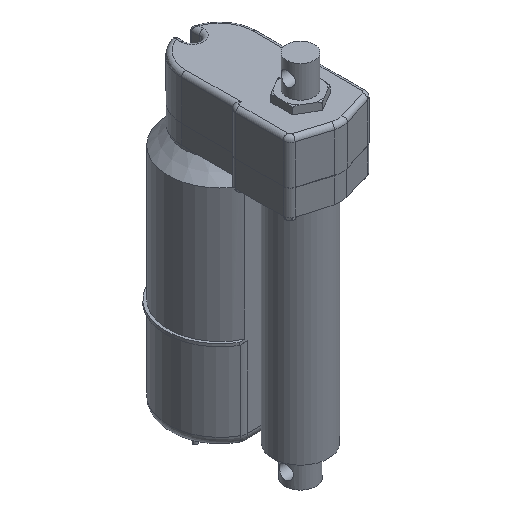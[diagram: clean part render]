
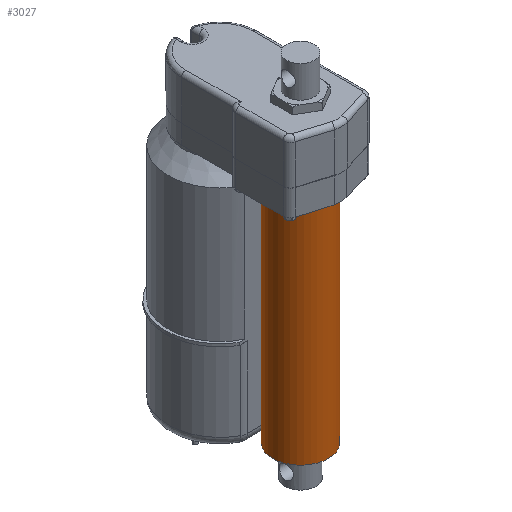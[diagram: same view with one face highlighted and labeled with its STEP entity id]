
A CAD part, isometric view. The second image highlights one B-rep face of the part: STEP entity #3027.
In plain terms, the highlighted cylindrical face has radius 25.65 mm (diameter 51.3 mm), a full revolution.
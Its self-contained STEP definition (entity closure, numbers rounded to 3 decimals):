
#410 = AXIS2_PLACEMENT_3D ( 'NONE', #5092, #5093, #5094 ) ;
#414 = AXIS2_PLACEMENT_3D ( 'NONE', #5067, #5075, #5076 ) ;
#439 = AXIS2_PLACEMENT_3D ( 'NONE', #5452, #5459, #5458 ) ;
#896 = EDGE_LOOP ( 'NONE', ( #1100 ) ) ;
#900 = EDGE_LOOP ( 'NONE', ( #1101 ) ) ;
#1100 = ORIENTED_EDGE ( 'NONE', *, *, #2946, .F. ) ;
#1101 = ORIENTED_EDGE ( 'NONE', *, *, #2953, .F. ) ;
#2221 = CIRCLE ( 'NONE', #414, 25.65 ) ;
#2232 = CIRCLE ( 'NONE', #410, 25.65 ) ;
#2358 = CYLINDRICAL_SURFACE ( 'NONE', #439, 25.65 ) ;
#2362 = FACE_OUTER_BOUND ( 'NONE', #896, .T. ) ;
#2363 = FACE_OUTER_BOUND ( 'NONE', #900, .T. ) ;
#2946 = EDGE_CURVE ( 'NONE', #5698, #5698, #2221, .T. ) ;
#2953 = EDGE_CURVE ( 'NONE', #5704, #5704, #2232, .T. ) ;
#3027 = ADVANCED_FACE ( 'NONE', ( #2363, #2362 ), #2358, .T. ) ;
#5067 = CARTESIAN_POINT ( 'NONE',  ( 0., 0., 210.5 ) ) ;
#5075 = DIRECTION ( 'NONE',  ( 0., 0., 1. ) ) ;
#5076 = DIRECTION ( 'NONE',  ( 1., 0., 0. ) ) ;
#5092 = CARTESIAN_POINT ( 'NONE',  ( 0., 0., 0. ) ) ;
#5093 = DIRECTION ( 'NONE',  ( 0., 0., -1. ) ) ;
#5094 = DIRECTION ( 'NONE',  ( 1., 0., 0. ) ) ;
#5452 = CARTESIAN_POINT ( 'NONE',  ( 0., 0., -72.549 ) ) ;
#5458 = DIRECTION ( 'NONE',  ( 1., 0., 0. ) ) ;
#5459 = DIRECTION ( 'NONE',  ( 0., 0., 1. ) ) ;
#5698 = VERTEX_POINT ( 'NONE', #5699 ) ;
#5699 = CARTESIAN_POINT ( 'NONE',  ( 25.65, 0., 210.5 ) ) ;
#5704 = VERTEX_POINT ( 'NONE', #5705 ) ;
#5705 = CARTESIAN_POINT ( 'NONE',  ( 25.65, 0., 0. ) ) ;
